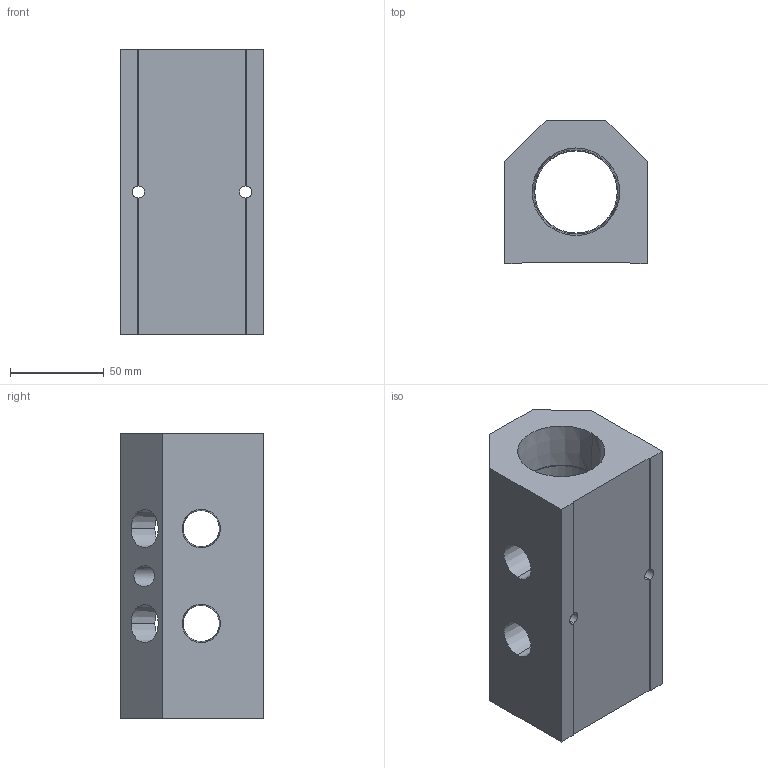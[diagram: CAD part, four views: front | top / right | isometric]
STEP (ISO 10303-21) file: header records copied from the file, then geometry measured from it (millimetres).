
FILE_DESCRIPTION (( 'STEP AP214' ), '1' );
FILE_NAME ('ALM2ABCDE-N8N24-152B.step', '2022-02-07T09:29:03', ( '' ), ( '' ), 'SwSTEP 2.0', 'SolidWorks 2020', '' );
FILE_SCHEMA (( 'AUTOMOTIVE_DESIGN' ));
Length unit declared in the file: millimetre
Products named in the file (1): ALM2ABCDE-N8N24-152B
Bounding box: 76.2 x 76.2 x 152 mm (x, y, z)
Volume: 507155.2 mm3; surface area: 78422.7 mm2
Topology: 1 solids, 1 shells, 351 faces, 959 edges, 638 vertices
Faces by surface type: plane 235, bspline 80, cone 24, cylinder 12
Entity records: 20317 total; most frequent: CARTESIAN_POINT 8553, ORIENTED_EDGE 1918, DIRECTION 1327, EDGE_CURVE 959, LINE 695, VECTOR 695, VERTEX_POINT 638, EDGE_LOOP 405
